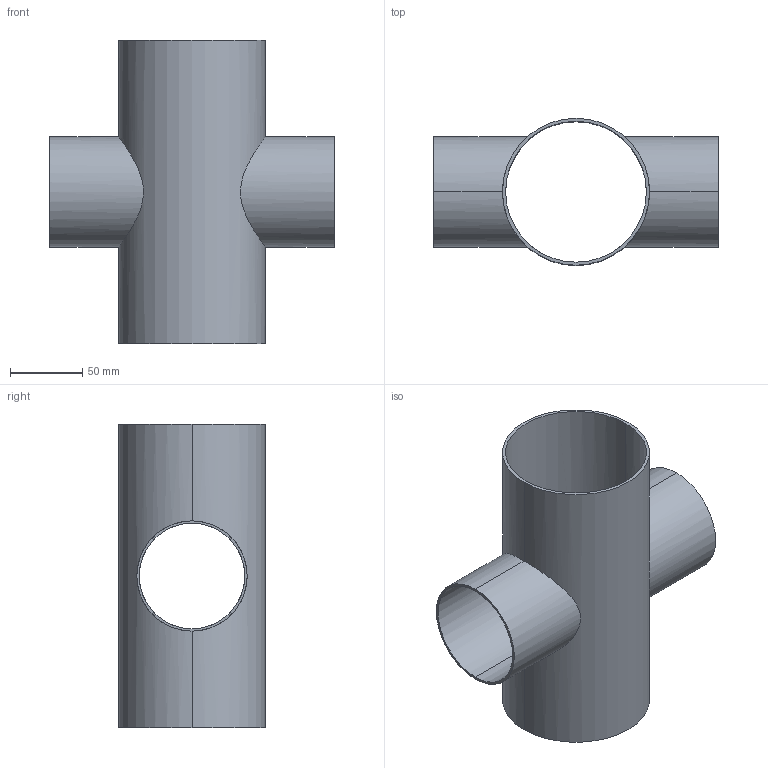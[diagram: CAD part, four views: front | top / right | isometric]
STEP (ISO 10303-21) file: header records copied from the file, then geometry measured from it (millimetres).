
FILE_DESCRIPTION (( 'STEP AP214' ), '1' );
FILE_NAME ('TE9RWWWW6L4.0x3.0-...STEP', '2016-05-22T04:48:36', ( 'eran' ), ( '' ), 'SwSTEP 2.0', 'SolidWorks 2016', '' );
FILE_SCHEMA (( 'AUTOMOTIVE_DESIGN' ));
Length unit declared in the file: millimetre
Products named in the file (1): TE9RWWWW6L4.0x3.0-..
Bounding box: 196.85 x 101.6 x 209.55 mm (x, y, z)
Volume: 161784 mm3; surface area: 167068.9 mm2
Topology: 1 solids, 1 shells, 16 faces, 40 edges, 24 vertices
Faces by surface type: cylinder 12, plane 4
Entity records: 1082 total; most frequent: CARTESIAN_POINT 657, DIRECTION 82, ORIENTED_EDGE 80, EDGE_CURVE 40, AXIS2_PLACEMENT_3D 33, VERTEX_POINT 24, EDGE_LOOP 20, CIRCLE 16
